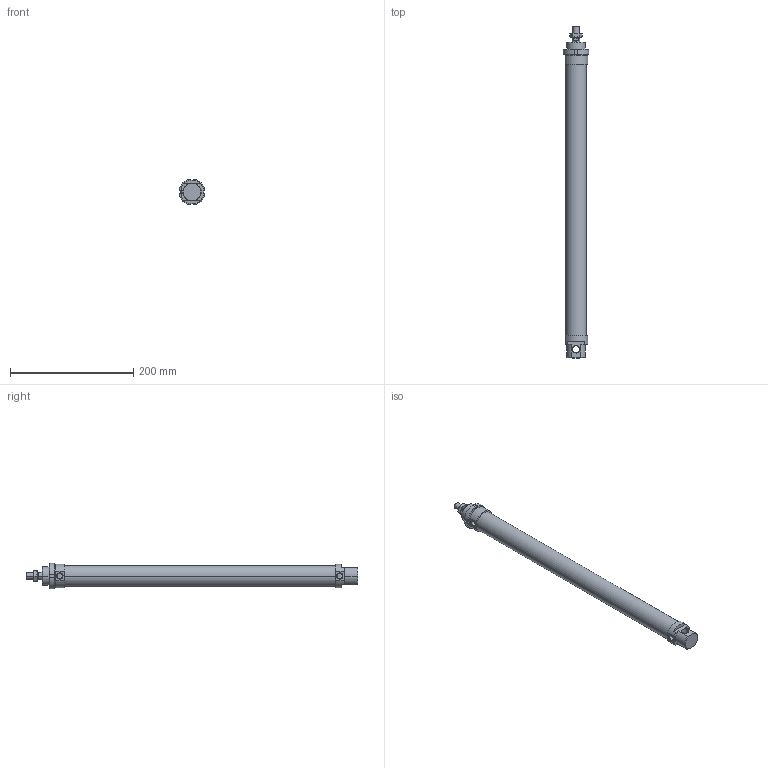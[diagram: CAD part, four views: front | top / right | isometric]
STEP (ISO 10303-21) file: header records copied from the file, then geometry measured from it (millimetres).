
FILE_DESCRIPTION((''),'2;1');
FILE_NAME('I:\DOC-EDP\Lib-3d\1200\CILINDRI\1280\1280_32_0400.stp','2003-04-07T19:05:28',('maffial1'),(''),'Autodesk Inventor (R) 6.0','Autodesk Inventor (R) 6.0','');
FILE_SCHEMA(('AUTOMOTIVE_DESIGN { 1 0 10303 214 1 1 1 1 }'));
Length unit declared in the file: millimetre
Products named in the file (5): 1280_32_0400; S1280_32_400; 1200_32_05; 1200_32_06; C1280_32_400
Assembly tree (4 placements, depth 2):
  1280_32_0400
    S1280_32_400
    1200_32_05
    1200_32_06
    C1280_32_400
Bounding box: 41.7 x 539 x 41.7 mm (x, y, z)
Volume: 456366 mm3; surface area: 95879.2 mm2
Topology: 4 solids, 4 shells, 122 faces, 286 edges, 180 vertices
Faces by surface type: plane 44, cone 32, cylinder 26, bspline 20
Entity records: 3831 total; most frequent: CARTESIAN_POINT 997, DIRECTION 582, ORIENTED_EDGE 572, EDGE_CURVE 286, AXIS2_PLACEMENT_3D 229, VERTEX_POINT 180, EDGE_LOOP 136, VECTOR 124
